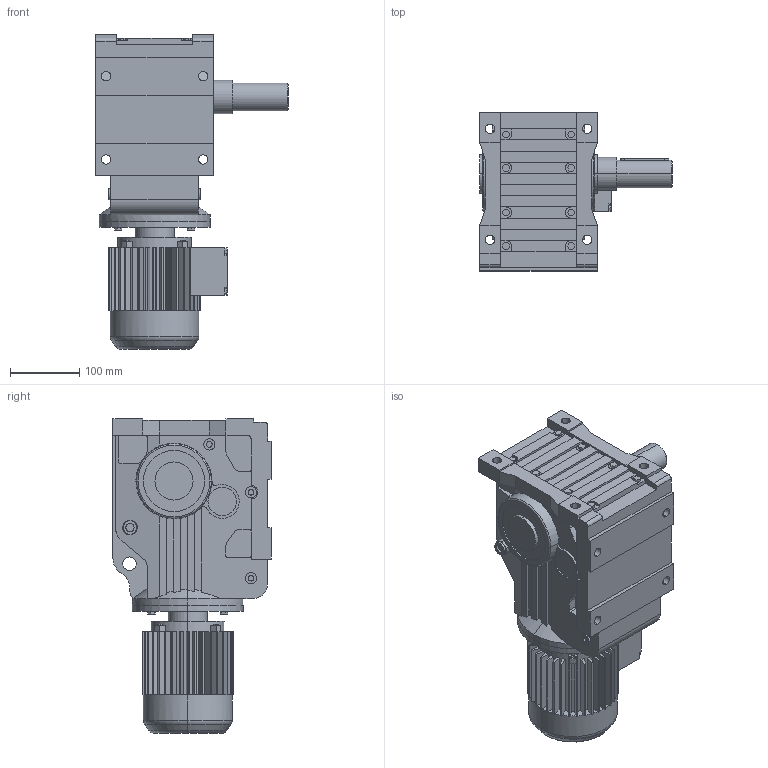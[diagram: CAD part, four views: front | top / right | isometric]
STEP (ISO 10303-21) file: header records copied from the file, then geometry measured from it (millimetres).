
FILE_DESCRIPTION(('Open CASCADE Model'),'2;1');
FILE_NAME('Open CASCADE Shape Model','2021-06-02T11:05:15',('Author'),( 'Open CASCADE'),'Open CASCADE STEP processor 6.3','Open CASCADE 6.3' ,'Unknown');
FILE_SCHEMA(('AUTOMOTIVE_DESIGN_CC2 { 1 2 10303 214 -1 1 5 4 }'));
Length unit declared in the file: millimetre
Products named in the file (4): 1_K67DR63-A; K37‵157_67.step; 萇儂_160-DR63-185-240-132-105.step; す瑩妗陑粣K_67.step
Assembly tree (3 placements, depth 2):
  1_K67DR63-A
    K37‵157_67.step
    萇儂_160-DR63-185-240-132-105.step
    す瑩妗陑粣K_67.step
Bounding box: 278 x 228 x 454 mm (x, y, z)
Volume: 9720247.9 mm3; surface area: 601939.2 mm2
Topology: 3 solids, 3 shells, 839 faces, 2210 edges, 1434 vertices
Faces by surface type: plane 584, cylinder 231, cone 16, torus 8
Entity records: 57738 total; most frequent: CARTESIAN_POINT 15729, DIRECTION 7244, ORIENTED_EDGE 4416, PCURVE 4416, DEFINITIONAL_REPRESENTATION 4416, LINE 3943, VECTOR 3943, EDGE_CURVE 2208
